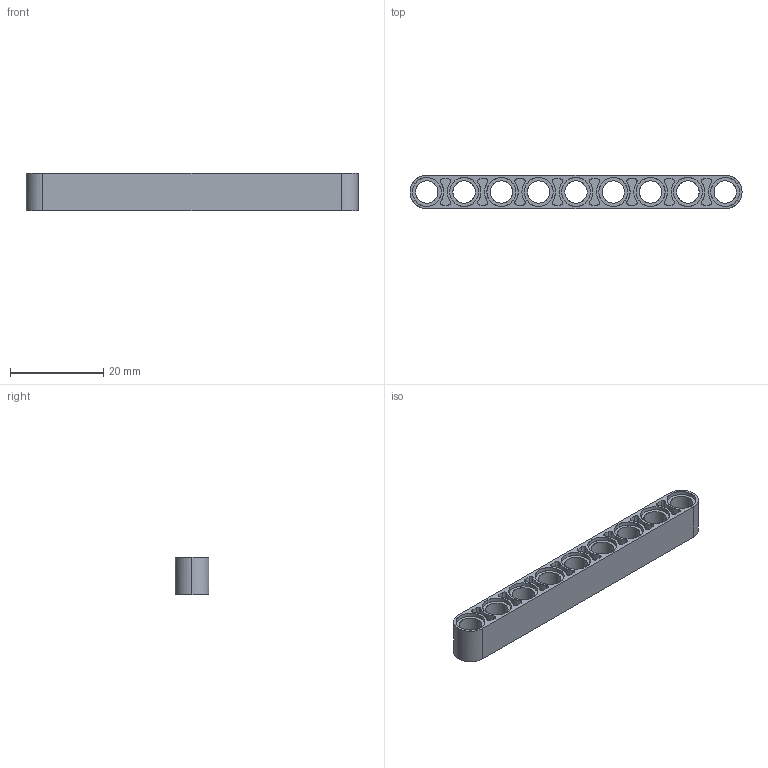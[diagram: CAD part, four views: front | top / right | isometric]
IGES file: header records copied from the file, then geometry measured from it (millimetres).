
Start section: C
Global section: file name: Gray_4645730_AVV.iges; native system: By Siemens PLM Incorporated; preprocessor: XPlus GENERIC/IGES 26.1.183; author: Author; organization: Title; date: 20250722.000137; units: millimetre
Bounding box: 71.2 x 7.2 x 8 mm (x, y, z)
Surface area: 3794.1 mm2 (no closed solid volume)
Topology: 0 solids, 0 shells, 245 faces, 1362 edges, 1362 vertices
Faces by surface type: bspline 245
